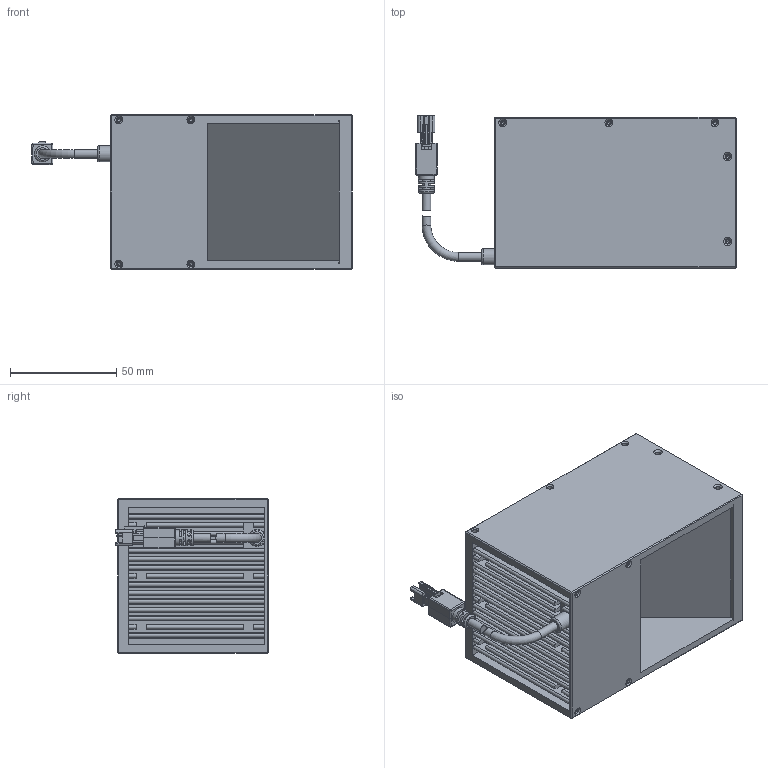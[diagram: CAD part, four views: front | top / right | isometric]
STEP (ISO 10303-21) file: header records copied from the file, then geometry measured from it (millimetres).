
FILE_DESCRIPTION (( 'STEP AP203' ), '1' );
FILE_NAME ('OPT-CO70-X-V5.0尨砩芞.STEP', '2025-01-22T03:40:47', ( '' ), ( '' ), 'SwSTEP 2.0', 'SolidWorks 2016', '' );
FILE_SCHEMA (( 'CONFIG_CONTROL_DESIGN' ));
Length unit declared in the file: millimetre
Products named in the file (1): OPT-CO70-X-V5.0尨砩芞
Bounding box: 150.98 x 71.8 x 73 mm (x, y, z)
Volume: 428240.4 mm3; surface area: 83169.5 mm2
Topology: 6 solids, 13 shells, 642 faces, 1619 edges, 1031 vertices
Faces by surface type: plane 403, cylinder 167, cone 44, bspline 20, torus 8
Full cylindrical faces by diameter (mm): 1.6 x18, 2 x10, 2.4 x14, 3.5 x1, 4.1 x3, 4.2 x4, 5.8 x1, 7.5 x2, 8 x1
Entity records: 18883 total; most frequent: CARTESIAN_POINT 4018, DIRECTION 3017, ORIENTED_EDGE 2950, EDGE_CURVE 1475, VECTOR 1055, LINE 1055, VERTEX_POINT 996, AXIS2_PLACEMENT_3D 981
